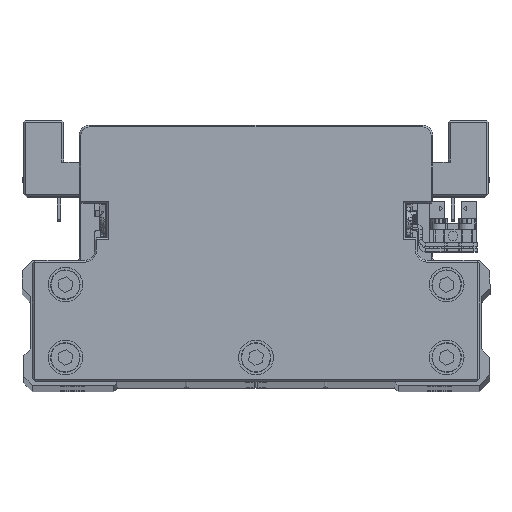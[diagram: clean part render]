
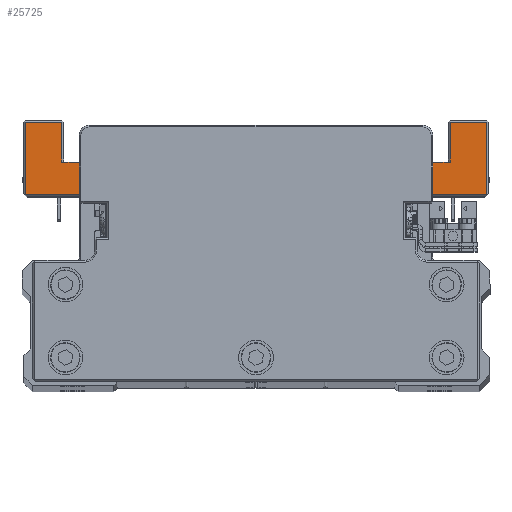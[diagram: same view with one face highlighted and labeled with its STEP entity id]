
A CAD part, top view. The second image highlights one B-rep face of the part: STEP entity #25725.
In plain terms, the highlighted planar face has unit normal (0, 0, 1) as drawn and (0, -1, 0) by its records, which use the part's own axes.
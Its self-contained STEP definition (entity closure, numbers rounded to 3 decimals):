
#426 = CARTESIAN_POINT ( 'NONE',  ( 46., -45., -52.5 ) ) ;
#542 = EDGE_CURVE ( 'NONE', #21387, #10361, #30509, .T. ) ;
#582 = DIRECTION ( 'NONE',  ( -0.991, 0., 0.132 ) ) ;
#811 = CARTESIAN_POINT ( 'NONE',  ( 36.217, -45., -42.5 ) ) ;
#1049 = DIRECTION ( 'NONE',  ( 0., 0., 1. ) ) ;
#1264 = DIRECTION ( 'NONE',  ( 0., 0., -1. ) ) ;
#2309 = EDGE_CURVE ( 'NONE', #16558, #10361, #39849, .T. ) ;
#2330 = CARTESIAN_POINT ( 'NONE',  ( -36.217, -45., -42.5 ) ) ;
#2613 = ORIENTED_EDGE ( 'NONE', *, *, #21588, .F. ) ;
#2618 = CARTESIAN_POINT ( 'NONE',  ( 46., -45., -52.5 ) ) ;
#3144 = VERTEX_POINT ( 'NONE', #30332 ) ;
#3214 = ORIENTED_EDGE ( 'NONE', *, *, #12259, .T. ) ;
#3362 = VECTOR ( 'NONE', #10998, 1000. ) ;
#3809 = DIRECTION ( 'NONE',  ( 0., 0., -1. ) ) ;
#3975 = VERTEX_POINT ( 'NONE', #22923 ) ;
#4003 = ORIENTED_EDGE ( 'NONE', *, *, #8198, .T. ) ;
#4189 = ORIENTED_EDGE ( 'NONE', *, *, #31084, .T. ) ;
#4695 = LINE ( 'NONE', #17118, #26553 ) ;
#4831 = EDGE_CURVE ( 'NONE', #14937, #21387, #13370, .T. ) ;
#4913 = VECTOR ( 'NONE', #35981, 1000. ) ;
#5539 = VERTEX_POINT ( 'NONE', #24277 ) ;
#6166 = EDGE_LOOP ( 'NONE', ( #22740, #24618, #3214, #4003, #23166, #29299, #11559, #2613, #13359, #31023, #19801, #31859, #22322, #32720, #4189, #19488, #35772, #17647 ) ) ;
#6701 = VERTEX_POINT ( 'NONE', #7789 ) ;
#6711 = CARTESIAN_POINT ( 'NONE',  ( -40.066, -45., -43. ) ) ;
#6840 = VECTOR ( 'NONE', #24362, 1000. ) ;
#7789 = CARTESIAN_POINT ( 'NONE',  ( 40.066, -45., -43. ) ) ;
#7928 = CARTESIAN_POINT ( 'NONE',  ( -77.786, -45., -42.5 ) ) ;
#8198 = EDGE_CURVE ( 'NONE', #10518, #25496, #11136, .T. ) ;
#8255 = DIRECTION ( 'NONE',  ( 0., 0., -1. ) ) ;
#8757 = DIRECTION ( 'NONE',  ( 0., -1., 0. ) ) ;
#8779 = CARTESIAN_POINT ( 'NONE',  ( 46., -45., -54. ) ) ;
#8832 = CARTESIAN_POINT ( 'NONE',  ( 56., -45., -64.5 ) ) ;
#9061 = EDGE_CURVE ( 'NONE', #6701, #3144, #10933, .T. ) ;
#9619 = CARTESIAN_POINT ( 'NONE',  ( 67., -45., -64. ) ) ;
#10158 = VECTOR ( 'NONE', #38215, 1000. ) ;
#10361 = VERTEX_POINT ( 'NONE', #8779 ) ;
#10518 = VERTEX_POINT ( 'NONE', #6711 ) ;
#10910 = LINE ( 'NONE', #23330, #36508 ) ;
#10933 = CIRCLE ( 'NONE', #33713, 1.5 ) ;
#10998 = DIRECTION ( 'NONE',  ( -1., 0., 0. ) ) ;
#11136 = LINE ( 'NONE', #23552, #4913 ) ;
#11192 = DIRECTION ( 'NONE',  ( 1., 0., 0. ) ) ;
#11559 = ORIENTED_EDGE ( 'NONE', *, *, #35509, .T. ) ;
#11823 = FACE_OUTER_BOUND ( 'NONE', #6166, .T. ) ;
#11948 = CARTESIAN_POINT ( 'NONE',  ( 46., -45., -54. ) ) ;
#12227 = DIRECTION ( 'NONE',  ( 0., 0., 1. ) ) ;
#12229 = VECTOR ( 'NONE', #20377, 1000. ) ;
#12259 = EDGE_CURVE ( 'NONE', #5539, #10518, #35494, .T. ) ;
#12965 = EDGE_CURVE ( 'NONE', #40246, #20825, #37529, .T. ) ;
#13359 = ORIENTED_EDGE ( 'NONE', *, *, #31132, .F. ) ;
#13370 = LINE ( 'NONE', #25780, #10158 ) ;
#13668 = LINE ( 'NONE', #26081, #13883 ) ;
#13883 = VECTOR ( 'NONE', #38520, 1000. ) ;
#13913 = VERTEX_POINT ( 'NONE', #26354 ) ;
#14388 = CARTESIAN_POINT ( 'NONE',  ( -40.066, -45., -41.5 ) ) ;
#14710 = VERTEX_POINT ( 'NONE', #811 ) ;
#14900 = EDGE_CURVE ( 'NONE', #13913, #37349, #26659, .T. ) ;
#14937 = VERTEX_POINT ( 'NONE', #39309 ) ;
#15042 = DIRECTION ( 'NONE',  ( 0., 0., -1. ) ) ;
#15383 = VECTOR ( 'NONE', #22041, 1000. ) ;
#15822 = CARTESIAN_POINT ( 'NONE',  ( -46., -45., -52.5 ) ) ;
#16075 = LINE ( 'NONE', #28478, #29051 ) ;
#16535 = LINE ( 'NONE', #28939, #21032 ) ;
#16558 = VERTEX_POINT ( 'NONE', #16705 ) ;
#16705 = CARTESIAN_POINT ( 'NONE',  ( -46., -45., -54. ) ) ;
#16745 = CARTESIAN_POINT ( 'NONE',  ( 40.066, -45., -41.5 ) ) ;
#17118 = CARTESIAN_POINT ( 'NONE',  ( -39.868, -45., -42.987 ) ) ;
#17647 = ORIENTED_EDGE ( 'NONE', *, *, #23003, .T. ) ;
#17924 = AXIS2_PLACEMENT_3D ( 'NONE', #14388, #36184, #8255 ) ;
#18097 = VECTOR ( 'NONE', #12227, 1000. ) ;
#18981 = EDGE_CURVE ( 'NONE', #19465, #5539, #4695, .T. ) ;
#19276 = LINE ( 'NONE', #31707, #31441 ) ;
#19465 = VERTEX_POINT ( 'NONE', #2330 ) ;
#19488 = ORIENTED_EDGE ( 'NONE', *, *, #31777, .T. ) ;
#19492 = EDGE_CURVE ( 'NONE', #14937, #40246, #36742, .T. ) ;
#19801 = ORIENTED_EDGE ( 'NONE', *, *, #542, .F. ) ;
#20377 = DIRECTION ( 'NONE',  ( -1., 0., 0. ) ) ;
#20706 = VECTOR ( 'NONE', #15042, 1000. ) ;
#20825 = VERTEX_POINT ( 'NONE', #34292 ) ;
#21032 = VECTOR ( 'NONE', #1049, 1000. ) ;
#21186 = DIRECTION ( 'NONE',  ( 0., 0., -1. ) ) ;
#21256 = DIRECTION ( 'NONE',  ( 0., 0., -1. ) ) ;
#21387 = VERTEX_POINT ( 'NONE', #426 ) ;
#21588 = EDGE_CURVE ( 'NONE', #39199, #3975, #26471, .T. ) ;
#22041 = DIRECTION ( 'NONE',  ( 1., 0., 0. ) ) ;
#22322 = ORIENTED_EDGE ( 'NONE', *, *, #19492, .T. ) ;
#22740 = ORIENTED_EDGE ( 'NONE', *, *, #24289, .T. ) ;
#22920 = VERTEX_POINT ( 'NONE', #31135 ) ;
#22923 = CARTESIAN_POINT ( 'NONE',  ( -56., -45., -52.5 ) ) ;
#23003 = EDGE_CURVE ( 'NONE', #3144, #14710, #16075, .T. ) ;
#23166 = ORIENTED_EDGE ( 'NONE', *, *, #26358, .T. ) ;
#23330 = CARTESIAN_POINT ( 'NONE',  ( 40.066, -45., -43. ) ) ;
#23552 = CARTESIAN_POINT ( 'NONE',  ( -66., -45., -43. ) ) ;
#24236 = PLANE ( 'NONE',  #31506 ) ;
#24277 = CARTESIAN_POINT ( 'NONE',  ( -39.868, -45., -42.987 ) ) ;
#24289 = EDGE_CURVE ( 'NONE', #14710, #19465, #35860, .T. ) ;
#24362 = DIRECTION ( 'NONE',  ( 1., 0., 0. ) ) ;
#24618 = ORIENTED_EDGE ( 'NONE', *, *, #18981, .T. ) ;
#25496 = VERTEX_POINT ( 'NONE', #38129 ) ;
#25725 = ADVANCED_FACE ( 'NONE', ( #11823 ), #24236, .T. ) ;
#25780 = CARTESIAN_POINT ( 'NONE',  ( 55.5, -45., -52.5 ) ) ;
#26081 = CARTESIAN_POINT ( 'NONE',  ( -46., -45., -52.5 ) ) ;
#26354 = CARTESIAN_POINT ( 'NONE',  ( -66.5, -45., -64. ) ) ;
#26358 = EDGE_CURVE ( 'NONE', #25496, #13913, #19276, .T. ) ;
#26471 = LINE ( 'NONE', #38909, #3362 ) ;
#26553 = VECTOR ( 'NONE', #29536, 1000. ) ;
#26604 = CARTESIAN_POINT ( 'NONE',  ( -56., -45., -64. ) ) ;
#26653 = VECTOR ( 'NONE', #21256, 1000. ) ;
#26659 = LINE ( 'NONE', #39101, #30042 ) ;
#27709 = LINE ( 'NONE', #40129, #18097 ) ;
#28478 = CARTESIAN_POINT ( 'NONE',  ( 25.802, -45., -41.111 ) ) ;
#28939 = CARTESIAN_POINT ( 'NONE',  ( 66.5, -45., -43.5 ) ) ;
#29051 = VECTOR ( 'NONE', #582, 1000. ) ;
#29152 = DIRECTION ( 'NONE',  ( 0., 1., 0. ) ) ;
#29299 = ORIENTED_EDGE ( 'NONE', *, *, #14900, .T. ) ;
#29536 = DIRECTION ( 'NONE',  ( -0.991, 0., -0.132 ) ) ;
#30042 = VECTOR ( 'NONE', #11192, 1000. ) ;
#30332 = CARTESIAN_POINT ( 'NONE',  ( 39.868, -45., -42.987 ) ) ;
#30509 = LINE ( 'NONE', #2618, #20706 ) ;
#31023 = ORIENTED_EDGE ( 'NONE', *, *, #2309, .T. ) ;
#31084 = EDGE_CURVE ( 'NONE', #20825, #22920, #16535, .T. ) ;
#31132 = EDGE_CURVE ( 'NONE', #16558, #39199, #13668, .T. ) ;
#31135 = CARTESIAN_POINT ( 'NONE',  ( 66.5, -45., -43. ) ) ;
#31441 = VECTOR ( 'NONE', #3809, 1000. ) ;
#31506 = AXIS2_PLACEMENT_3D ( 'NONE', #36668, #8757, #21186 ) ;
#31707 = CARTESIAN_POINT ( 'NONE',  ( -66.5, -45., -64.5 ) ) ;
#31777 = EDGE_CURVE ( 'NONE', #22920, #6701, #10910, .T. ) ;
#31859 = ORIENTED_EDGE ( 'NONE', *, *, #4831, .F. ) ;
#32004 = CARTESIAN_POINT ( 'NONE',  ( 56., -45., -64. ) ) ;
#32720 = ORIENTED_EDGE ( 'NONE', *, *, #12965, .T. ) ;
#33713 = AXIS2_PLACEMENT_3D ( 'NONE', #16745, #29152, #1264 ) ;
#34292 = CARTESIAN_POINT ( 'NONE',  ( 66.5, -45., -64. ) ) ;
#35494 = CIRCLE ( 'NONE', #17924, 1.5 ) ;
#35509 = EDGE_CURVE ( 'NONE', #37349, #3975, #27709, .T. ) ;
#35763 = DIRECTION ( 'NONE',  ( -1., 0., 0. ) ) ;
#35772 = ORIENTED_EDGE ( 'NONE', *, *, #9061, .T. ) ;
#35860 = LINE ( 'NONE', #7928, #12229 ) ;
#35981 = DIRECTION ( 'NONE',  ( -1., 0., 0. ) ) ;
#36184 = DIRECTION ( 'NONE',  ( 0., 1., 0. ) ) ;
#36508 = VECTOR ( 'NONE', #35763, 1000. ) ;
#36668 = CARTESIAN_POINT ( 'NONE',  ( 0., -45., 0. ) ) ;
#36742 = LINE ( 'NONE', #8832, #26653 ) ;
#37349 = VERTEX_POINT ( 'NONE', #26604 ) ;
#37529 = LINE ( 'NONE', #9619, #15383 ) ;
#38129 = CARTESIAN_POINT ( 'NONE',  ( -66.5, -45., -43. ) ) ;
#38215 = DIRECTION ( 'NONE',  ( -1., 0., 0. ) ) ;
#38520 = DIRECTION ( 'NONE',  ( 0., 0., 1. ) ) ;
#38909 = CARTESIAN_POINT ( 'NONE',  ( -55.5, -45., -52.5 ) ) ;
#39101 = CARTESIAN_POINT ( 'NONE',  ( -55.5, -45., -64. ) ) ;
#39199 = VERTEX_POINT ( 'NONE', #15822 ) ;
#39309 = CARTESIAN_POINT ( 'NONE',  ( 56., -45., -52.5 ) ) ;
#39849 = LINE ( 'NONE', #11948, #6840 ) ;
#40129 = CARTESIAN_POINT ( 'NONE',  ( -56., -45., -52.5 ) ) ;
#40246 = VERTEX_POINT ( 'NONE', #32004 ) ;
